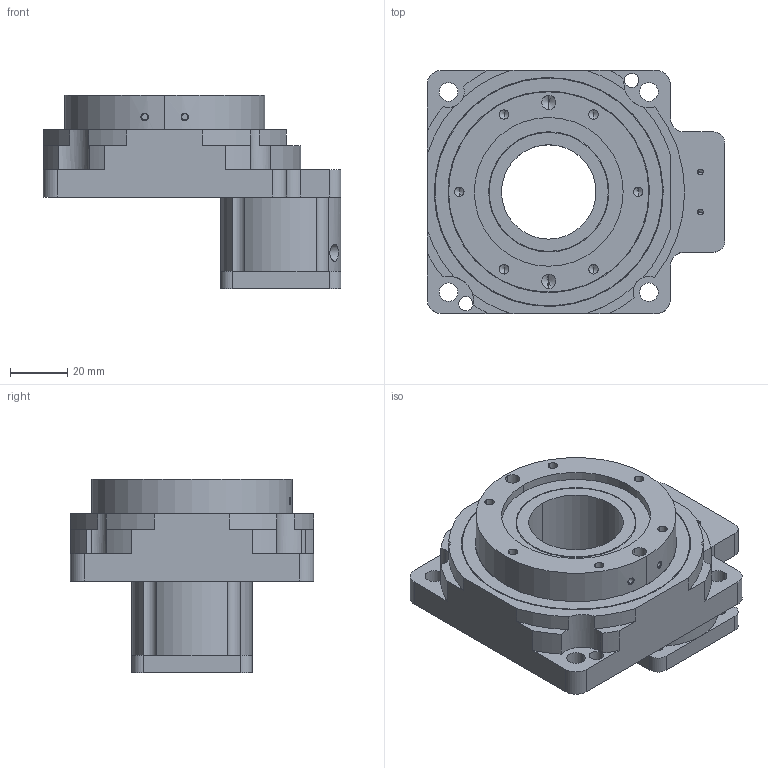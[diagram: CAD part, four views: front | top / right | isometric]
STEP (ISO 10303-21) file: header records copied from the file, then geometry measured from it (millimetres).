
FILE_DESCRIPTION (( 'STEP AP203' ), '1' );
FILE_NAME ('NDG85-12-¨B¶i.STEP', '2017-10-15T18:44:37', ( 'SkyUser' ), ( 'ITianKong.Com' ), 'SwSTEP 2.0', 'SolidWorks 2013', '' );
FILE_SCHEMA (( 'CONFIG_CONTROL_DESIGN' ));
Length unit declared in the file: millimetre
Products named in the file (1): NDG85-12-步進
Bounding box: 104.06 x 85 x 67.5 mm (x, y, z)
Volume: 180066.9 mm3; surface area: 72302 mm2
Topology: 7 solids, 7 shells, 399 faces, 1015 edges, 630 vertices
Faces by surface type: cylinder 230, plane 89, cone 68, torus 8, bspline 4
Entity records: 14554 total; most frequent: CARTESIAN_POINT 4600, DIRECTION 2219, ORIENTED_EDGE 1946, EDGE_CURVE 973, AXIS2_PLACEMENT_3D 903, VERTEX_POINT 630, CIRCLE 507, EDGE_LOOP 503
